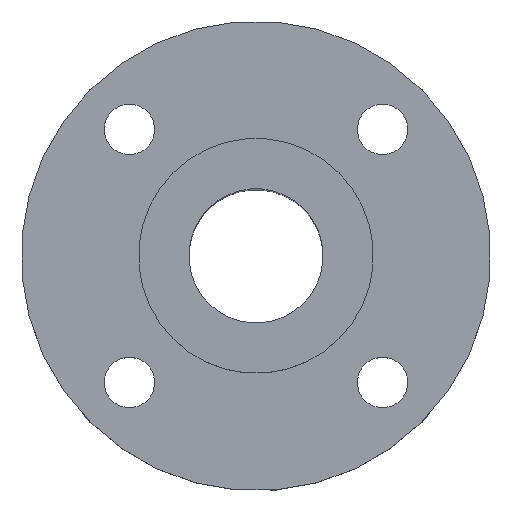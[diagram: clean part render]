
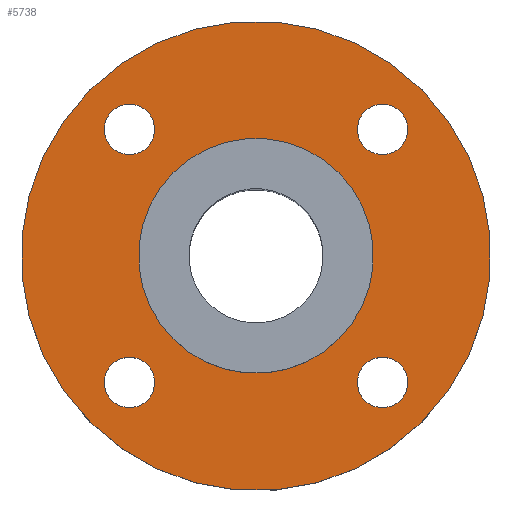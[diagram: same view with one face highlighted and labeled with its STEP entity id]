
A CAD part, top view. The second image highlights one B-rep face of the part: STEP entity #5738.
In plain terms, the highlighted planar face has unit normal (0, 0, 1).
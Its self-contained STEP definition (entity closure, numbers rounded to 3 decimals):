
#113=CIRCLE('',#6101,10.5);
#117=CIRCLE('',#6109,21.);
#118=CIRCLE('',#6111,2.25);
#119=CIRCLE('',#6112,2.25);
#120=CIRCLE('',#6113,2.25);
#121=CIRCLE('',#6114,2.25);
#522=ORIENTED_EDGE('',*,*,#2170,.F.);
#523=ORIENTED_EDGE('',*,*,#2171,.F.);
#524=ORIENTED_EDGE('',*,*,#2172,.F.);
#525=ORIENTED_EDGE('',*,*,#2173,.F.);
#526=ORIENTED_EDGE('',*,*,#2165,.T.);
#527=ORIENTED_EDGE('',*,*,#2169,.T.);
#2165=EDGE_CURVE('',#2992,#2992,#113,.F.);
#2169=EDGE_CURVE('',#2996,#2996,#117,.T.);
#2170=EDGE_CURVE('',#2997,#2997,#118,.T.);
#2171=EDGE_CURVE('',#2998,#2998,#119,.T.);
#2172=EDGE_CURVE('',#2999,#2999,#120,.T.);
#2173=EDGE_CURVE('',#3000,#3000,#121,.T.);
#2992=VERTEX_POINT('',#9081);
#2996=VERTEX_POINT('',#9093);
#2997=VERTEX_POINT('',#9096);
#2998=VERTEX_POINT('',#9098);
#2999=VERTEX_POINT('',#9100);
#3000=VERTEX_POINT('',#9102);
#4705=EDGE_LOOP('',(#522));
#4706=EDGE_LOOP('',(#523));
#4707=EDGE_LOOP('',(#524));
#4708=EDGE_LOOP('',(#525));
#4709=EDGE_LOOP('',(#526));
#4710=EDGE_LOOP('',(#527));
#5118=FACE_BOUND('',#4705,.T.);
#5119=FACE_BOUND('',#4706,.T.);
#5120=FACE_BOUND('',#4707,.T.);
#5121=FACE_BOUND('',#4708,.T.);
#5122=FACE_BOUND('',#4709,.T.);
#5123=FACE_BOUND('',#4710,.T.);
#5473=PLANE('',#6110);
#5738=ADVANCED_FACE('',(#5118,#5119,#5120,#5121,#5122,#5123),#5473,.T.);
#6101=AXIS2_PLACEMENT_3D('',#9080,#6633,#6634);
#6109=AXIS2_PLACEMENT_3D('',#9092,#6649,#6650);
#6110=AXIS2_PLACEMENT_3D('',#9094,#6651,#6652);
#6111=AXIS2_PLACEMENT_3D('',#9095,#6653,#6654);
#6112=AXIS2_PLACEMENT_3D('',#9097,#6655,#6656);
#6113=AXIS2_PLACEMENT_3D('',#9099,#6657,#6658);
#6114=AXIS2_PLACEMENT_3D('',#9101,#6659,#6660);
#6633=DIRECTION('',(0.,0.,1.));
#6634=DIRECTION('',(0.707,-0.707,0.));
#6649=DIRECTION('',(0.,0.,1.));
#6650=DIRECTION('',(0.707,-0.707,0.));
#6651=DIRECTION('',(0.,0.,1.));
#6652=DIRECTION('',(0.707,-0.707,0.));
#6653=DIRECTION('',(0.,0.,1.));
#6654=DIRECTION('',(0.707,-0.707,0.));
#6655=DIRECTION('',(0.,0.,1.));
#6656=DIRECTION('',(0.707,-0.707,0.));
#6657=DIRECTION('',(0.,0.,1.));
#6658=DIRECTION('',(0.707,-0.707,0.));
#6659=DIRECTION('',(0.,0.,1.));
#6660=DIRECTION('',(0.707,-0.707,0.));
#9080=CARTESIAN_POINT('',(0.,0.,0.));
#9081=CARTESIAN_POINT('',(7.425,-7.425,0.));
#9092=CARTESIAN_POINT('',(0.,0.,0.));
#9093=CARTESIAN_POINT('',(14.849,-14.849,0.));
#9094=CARTESIAN_POINT('',(0.,0.,0.));
#9095=CARTESIAN_POINT('',(11.314,11.314,0.));
#9096=CARTESIAN_POINT('',(12.905,9.723,0.));
#9097=CARTESIAN_POINT('',(-11.314,11.314,0.));
#9098=CARTESIAN_POINT('',(-9.723,9.723,0.));
#9099=CARTESIAN_POINT('',(-11.314,-11.314,0.));
#9100=CARTESIAN_POINT('',(-9.723,-12.905,0.));
#9101=CARTESIAN_POINT('',(11.314,-11.314,0.));
#9102=CARTESIAN_POINT('',(12.905,-12.905,0.));
